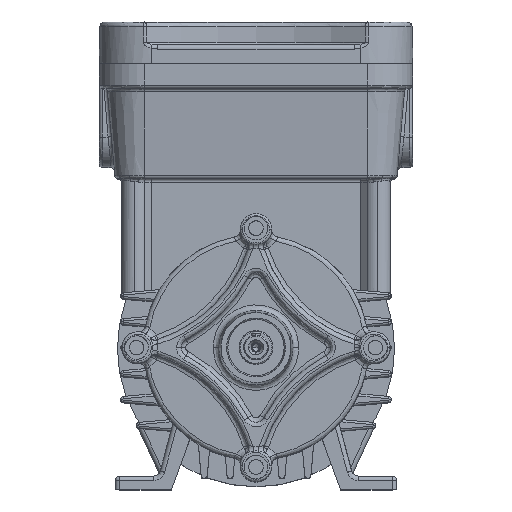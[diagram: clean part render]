
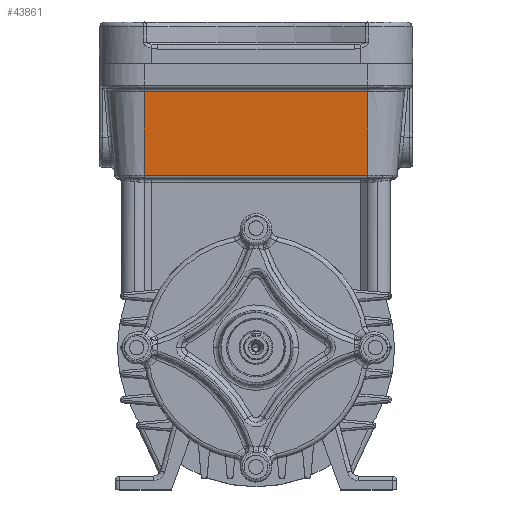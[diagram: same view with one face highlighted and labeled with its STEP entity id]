
A CAD part, top view. The second image highlights one B-rep face of the part: STEP entity #43861.
In plain terms, the highlighted planar face has unit normal (0, -0.087, 0.996).
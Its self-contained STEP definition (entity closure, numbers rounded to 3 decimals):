
#203 = EDGE_CURVE ( 'NONE', #50725, #32150, #51853, .T. ) ;
#271 = DIRECTION ( 'NONE',  ( -1., 0., 0. ) ) ;
#336 = ORIENTED_EDGE ( 'NONE', *, *, #43190, .T. ) ;
#4107 = VERTEX_POINT ( 'NONE', #4243 ) ;
#4243 = CARTESIAN_POINT ( 'NONE',  ( 49.5, 113.631, 127.88 ) ) ;
#6500 = CARTESIAN_POINT ( 'NONE',  ( 49.5, 76.369, 124.62 ) ) ;
#7148 = PLANE ( 'NONE',  #17628 ) ;
#8347 = LINE ( 'NONE', #21184, #47162 ) ;
#8916 = CARTESIAN_POINT ( 'NONE',  ( 49.5, 75., 124.5 ) ) ;
#8958 = LINE ( 'NONE', #12370, #50336 ) ;
#12370 = CARTESIAN_POINT ( 'NONE',  ( -49.5, 113.631, 127.88 ) ) ;
#17337 = ORIENTED_EDGE ( 'NONE', *, *, #21316, .T. ) ;
#17628 = AXIS2_PLACEMENT_3D ( 'NONE', #43158, #44200, #271 ) ;
#20696 = EDGE_CURVE ( 'NONE', #50725, #22938, #8347, .T. ) ;
#21184 = CARTESIAN_POINT ( 'NONE',  ( -49.5, 76.369, 124.62 ) ) ;
#21316 = EDGE_CURVE ( 'NONE', #22938, #4107, #47694, .T. ) ;
#22811 = DIRECTION ( 'NONE',  ( 0., 0.996, 0.087 ) ) ;
#22938 = VERTEX_POINT ( 'NONE', #6500 ) ;
#25517 = DIRECTION ( 'NONE',  ( 0., 0.996, 0.087 ) ) ;
#26671 = EDGE_LOOP ( 'NONE', ( #17337, #336, #31089, #36388 ) ) ;
#31089 = ORIENTED_EDGE ( 'NONE', *, *, #203, .F. ) ;
#32150 = VERTEX_POINT ( 'NONE', #51461 ) ;
#35275 = FACE_OUTER_BOUND ( 'NONE', #26671, .T. ) ;
#36388 = ORIENTED_EDGE ( 'NONE', *, *, #20696, .T. ) ;
#36903 = DIRECTION ( 'NONE',  ( 1., 0., 0. ) ) ;
#40300 = DIRECTION ( 'NONE',  ( -1., 0., 0. ) ) ;
#43158 = CARTESIAN_POINT ( 'NONE',  ( -49.5, 75., 124.5 ) ) ;
#43190 = EDGE_CURVE ( 'NONE', #4107, #32150, #8958, .T. ) ;
#43861 = ADVANCED_FACE ( 'NONE', ( #35275 ), #7148, .T. ) ;
#44200 = DIRECTION ( 'NONE',  ( 0., -0.087, 0.996 ) ) ;
#44357 = CARTESIAN_POINT ( 'NONE',  ( -49.5, 76.369, 124.62 ) ) ;
#46834 = VECTOR ( 'NONE', #22811, 1000. ) ;
#47162 = VECTOR ( 'NONE', #36903, 1000. ) ;
#47245 = CARTESIAN_POINT ( 'NONE',  ( -49.5, 75., 124.5 ) ) ;
#47694 = LINE ( 'NONE', #8916, #49571 ) ;
#49571 = VECTOR ( 'NONE', #25517, 1000. ) ;
#50336 = VECTOR ( 'NONE', #40300, 1000. ) ;
#50725 = VERTEX_POINT ( 'NONE', #44357 ) ;
#51461 = CARTESIAN_POINT ( 'NONE',  ( -49.5, 113.631, 127.88 ) ) ;
#51853 = LINE ( 'NONE', #47245, #46834 ) ;
